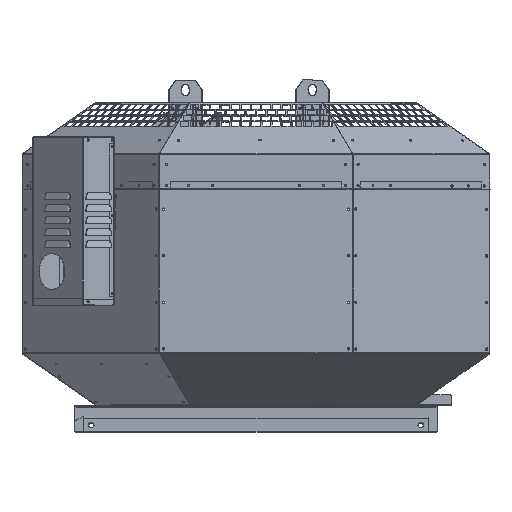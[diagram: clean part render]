
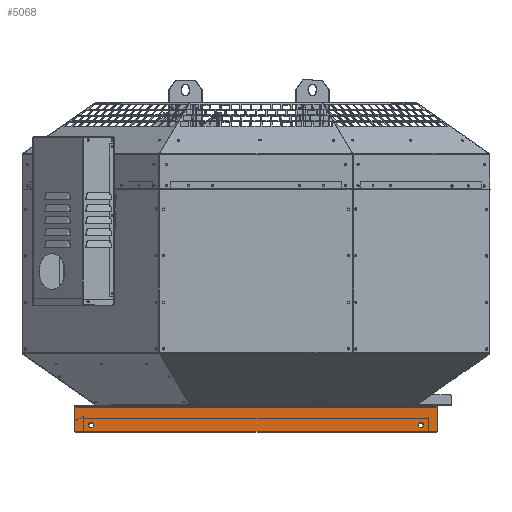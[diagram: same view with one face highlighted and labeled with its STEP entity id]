
A CAD part, top view. The second image highlights one B-rep face of the part: STEP entity #5068.
In plain terms, the highlighted planar face has unit normal (0, 0, 1).
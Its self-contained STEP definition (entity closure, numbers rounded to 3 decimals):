
#237 = CARTESIAN_POINT ( 'NONE',  ( -312.45, -21., 301.1 ) ) ;
#491 = DIRECTION ( 'NONE',  ( 0., -1., 0. ) ) ;
#975 = DIRECTION ( 'NONE',  ( -1., 0., 0. ) ) ;
#2762 = CARTESIAN_POINT ( 'NONE',  ( -309.45, -24., 301.1 ) ) ;
#3834 = AXIS2_PLACEMENT_3D ( 'NONE', #138567, #69616, #491 ) ;
#4726 = CIRCLE ( 'NONE', #3834, 3. ) ;
#5068 = ADVANCED_FACE ( 'NONE', ( #121528, #9654, #40442 ), #124098, .T. ) ;
#6207 = DIRECTION ( 'NONE',  ( 0., 0., 1. ) ) ;
#6660 = ORIENTED_EDGE ( 'NONE', *, *, #111076, .T. ) ;
#9477 = VERTEX_POINT ( 'NONE', #13882 ) ;
#9654 = FACE_BOUND ( 'NONE', #115353, .T. ) ;
#10236 = CIRCLE ( 'NONE', #83314, 4.5 ) ;
#11042 = EDGE_CURVE ( 'NONE', #137556, #64624, #17039, .T. ) ;
#13882 = CARTESIAN_POINT ( 'NONE',  ( 309.45, -24., 301.1 ) ) ;
#14630 = EDGE_LOOP ( 'NONE', ( #94271, #86489, #37750, #6660, #18666, #58788, #18126, #138824 ) ) ;
#17039 = CIRCLE ( 'NONE', #65740, 4.5 ) ;
#17047 = LINE ( 'NONE', #90818, #105355 ) ;
#17560 = EDGE_CURVE ( 'NONE', #64624, #137556, #114819, .T. ) ;
#17803 = VECTOR ( 'NONE', #138076, 1000. ) ;
#18126 = ORIENTED_EDGE ( 'NONE', *, *, #128917, .T. ) ;
#18666 = ORIENTED_EDGE ( 'NONE', *, *, #89261, .F. ) ;
#19772 = VERTEX_POINT ( 'NONE', #24906 ) ;
#19893 = CARTESIAN_POINT ( 'NONE',  ( -283., -13.2, 301.1 ) ) ;
#20403 = VECTOR ( 'NONE', #34223, 1000. ) ;
#23565 = VERTEX_POINT ( 'NONE', #237 ) ;
#24906 = CARTESIAN_POINT ( 'NONE',  ( 312.45, 17.6, 301.1 ) ) ;
#26316 = CARTESIAN_POINT ( 'NONE',  ( -294.55, 19.5, 301.1 ) ) ;
#30337 = AXIS2_PLACEMENT_3D ( 'NONE', #64388, #144983, #75954 ) ;
#31548 = DIRECTION ( 'NONE',  ( 0., -1., 0. ) ) ;
#32991 = DIRECTION ( 'NONE',  ( 0., 0., 1. ) ) ;
#34152 = DIRECTION ( 'NONE',  ( 0., 0., 1. ) ) ;
#34223 = DIRECTION ( 'NONE',  ( 0., -1., 0. ) ) ;
#37750 = ORIENTED_EDGE ( 'NONE', *, *, #103550, .F. ) ;
#40103 = EDGE_CURVE ( 'NONE', #112399, #48710, #80716, .T. ) ;
#40442 = FACE_OUTER_BOUND ( 'NONE', #14630, .T. ) ;
#40663 = EDGE_CURVE ( 'NONE', #23565, #114979, #4726, .T. ) ;
#44808 = LINE ( 'NONE', #48194, #68231 ) ;
#48194 = CARTESIAN_POINT ( 'NONE',  ( 312.45, 17.6, 301.1 ) ) ;
#48710 = VERTEX_POINT ( 'NONE', #94564 ) ;
#50257 = VERTEX_POINT ( 'NONE', #64926 ) ;
#51865 = AXIS2_PLACEMENT_3D ( 'NONE', #26316, #133253, #52726 ) ;
#52726 = DIRECTION ( 'NONE',  ( 0., -1., 0. ) ) ;
#54299 = CARTESIAN_POINT ( 'NONE',  ( -283., -8.7, 301.1 ) ) ;
#58788 = ORIENTED_EDGE ( 'NONE', *, *, #126928, .F. ) ;
#64388 = CARTESIAN_POINT ( 'NONE',  ( 283., -13.2, 301.1 ) ) ;
#64624 = VERTEX_POINT ( 'NONE', #83911 ) ;
#64926 = CARTESIAN_POINT ( 'NONE',  ( 312.45, -21., 301.1 ) ) ;
#65740 = AXIS2_PLACEMENT_3D ( 'NONE', #103156, #34152, #114738 ) ;
#65962 = LINE ( 'NONE', #115911, #85755 ) ;
#66502 = CARTESIAN_POINT ( 'NONE',  ( 283., -17.7, 301.1 ) ) ;
#68231 = VECTOR ( 'NONE', #128720, 1000. ) ;
#69616 = DIRECTION ( 'NONE',  ( 0., 0., 1. ) ) ;
#70841 = CARTESIAN_POINT ( 'NONE',  ( -312.45, 17.6, 301.1 ) ) ;
#75312 = CARTESIAN_POINT ( 'NONE',  ( 309.45, -21., 301.1 ) ) ;
#75954 = DIRECTION ( 'NONE',  ( 0., -1., 0. ) ) ;
#80716 = CIRCLE ( 'NONE', #102258, 4.5 ) ;
#81847 = LINE ( 'NONE', #91677, #20403 ) ;
#82413 = CARTESIAN_POINT ( 'NONE',  ( 309.05, 17.6, 301.1 ) ) ;
#82663 = EDGE_CURVE ( 'NONE', #120499, #140123, #140405, .T. ) ;
#83314 = AXIS2_PLACEMENT_3D ( 'NONE', #19893, #100536, #31548 ) ;
#83604 = EDGE_CURVE ( 'NONE', #48710, #112399, #10236, .T. ) ;
#83911 = CARTESIAN_POINT ( 'NONE',  ( 283., -8.7, 301.1 ) ) ;
#84871 = VERTEX_POINT ( 'NONE', #82413 ) ;
#85755 = VECTOR ( 'NONE', #975, 1000. ) ;
#86489 = ORIENTED_EDGE ( 'NONE', *, *, #40663, .T. ) ;
#86916 = DIRECTION ( 'NONE',  ( 0., -1., 0. ) ) ;
#89261 = EDGE_CURVE ( 'NONE', #19772, #50257, #44808, .T. ) ;
#90818 = CARTESIAN_POINT ( 'NONE',  ( 294.55, 17.6, 301.1 ) ) ;
#91677 = CARTESIAN_POINT ( 'NONE',  ( -312.45, 17.6, 301.1 ) ) ;
#94271 = ORIENTED_EDGE ( 'NONE', *, *, #120155, .T. ) ;
#94564 = CARTESIAN_POINT ( 'NONE',  ( -283., -17.7, 301.1 ) ) ;
#100536 = DIRECTION ( 'NONE',  ( 0., 0., 1. ) ) ;
#101988 = CARTESIAN_POINT ( 'NONE',  ( -283., -13.2, 301.1 ) ) ;
#102258 = AXIS2_PLACEMENT_3D ( 'NONE', #101988, #32991, #113597 ) ;
#102344 = DIRECTION ( 'NONE',  ( 1., 0., 0. ) ) ;
#103156 = CARTESIAN_POINT ( 'NONE',  ( 283., -13.2, 301.1 ) ) ;
#103550 = EDGE_CURVE ( 'NONE', #9477, #114979, #110518, .T. ) ;
#105355 = VECTOR ( 'NONE', #102344, 1000. ) ;
#106311 = ORIENTED_EDGE ( 'NONE', *, *, #40103, .F. ) ;
#106890 = VECTOR ( 'NONE', #140321, 1000. ) ;
#109696 = CARTESIAN_POINT ( 'NONE',  ( -309.05, 17.6, 301.1 ) ) ;
#110518 = LINE ( 'NONE', #128775, #106890 ) ;
#111076 = EDGE_CURVE ( 'NONE', #9477, #50257, #124976, .T. ) ;
#112399 = VERTEX_POINT ( 'NONE', #54299 ) ;
#113597 = DIRECTION ( 'NONE',  ( 0., -1., 0. ) ) ;
#114738 = DIRECTION ( 'NONE',  ( 0., -1., 0. ) ) ;
#114819 = CIRCLE ( 'NONE', #30337, 4.5 ) ;
#114979 = VERTEX_POINT ( 'NONE', #2762 ) ;
#115353 = EDGE_LOOP ( 'NONE', ( #127375, #106311 ) ) ;
#115911 = CARTESIAN_POINT ( 'NONE',  ( -294.55, 17.6, 301.1 ) ) ;
#120155 = EDGE_CURVE ( 'NONE', #140123, #23565, #81847, .T. ) ;
#120499 = VERTEX_POINT ( 'NONE', #109696 ) ;
#121528 = FACE_BOUND ( 'NONE', #145322, .T. ) ;
#124098 = PLANE ( 'NONE',  #51865 ) ;
#124976 = CIRCLE ( 'NONE', #130322, 3. ) ;
#126928 = EDGE_CURVE ( 'NONE', #84871, #19772, #17047, .T. ) ;
#127375 = ORIENTED_EDGE ( 'NONE', *, *, #83604, .F. ) ;
#128720 = DIRECTION ( 'NONE',  ( 0., -1., 0. ) ) ;
#128775 = CARTESIAN_POINT ( 'NONE',  ( -294.55, -24., 301.1 ) ) ;
#128917 = EDGE_CURVE ( 'NONE', #84871, #120499, #65962, .T. ) ;
#129297 = ORIENTED_EDGE ( 'NONE', *, *, #11042, .F. ) ;
#130322 = AXIS2_PLACEMENT_3D ( 'NONE', #75312, #6207, #86916 ) ;
#133253 = DIRECTION ( 'NONE',  ( 0., 0., 1. ) ) ;
#137556 = VERTEX_POINT ( 'NONE', #66502 ) ;
#138076 = DIRECTION ( 'NONE',  ( -1., 0., 0. ) ) ;
#138567 = CARTESIAN_POINT ( 'NONE',  ( -309.45, -21., 301.1 ) ) ;
#138573 = CARTESIAN_POINT ( 'NONE',  ( -294.55, 17.6, 301.1 ) ) ;
#138824 = ORIENTED_EDGE ( 'NONE', *, *, #82663, .T. ) ;
#140123 = VERTEX_POINT ( 'NONE', #70841 ) ;
#140321 = DIRECTION ( 'NONE',  ( -1., 0., 0. ) ) ;
#140405 = LINE ( 'NONE', #138573, #17803 ) ;
#143439 = ORIENTED_EDGE ( 'NONE', *, *, #17560, .F. ) ;
#144983 = DIRECTION ( 'NONE',  ( 0., 0., 1. ) ) ;
#145322 = EDGE_LOOP ( 'NONE', ( #129297, #143439 ) ) ;
